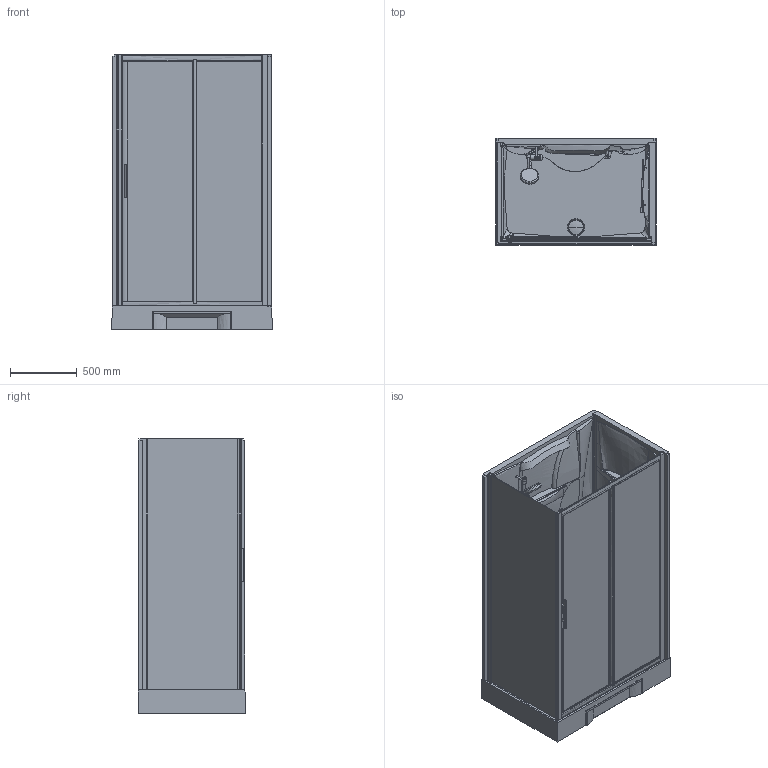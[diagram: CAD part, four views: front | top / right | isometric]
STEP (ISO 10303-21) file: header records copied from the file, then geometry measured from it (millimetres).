
FILE_DESCRIPTION(('STEP AP203'),'2;1');
FILE_NAME('NNH2P 120 M.stp','2015-09-08T09:32:48',(''),(''),'2014.1.117','THINKDESIGN','');
FILE_SCHEMA(('CONFIG_CONTROL_DESIGN'));
Length unit declared in the file: millimetre
Products named in the file (1): top
Bounding box: 1204.04 x 808.53 x 2063.26 mm (x, y, z)
Volume: 251366123.1 mm3; surface area: 20641941.1 mm2
Topology: 24 solids, 24 shells, 621 faces, 1667 edges, 1079 vertices
Faces by surface type: bspline 351, plane 228, cylinder 42
Entity records: 69725 total; most frequent: CARTESIAN_POINT 57062, ORIENTED_EDGE 3208, EDGE_CURVE 1604, DIRECTION 1469, VERTEX_POINT 1043, VECTOR 713, LINE 713, B_SPLINE_CURVE_WITH_KNOTS 637
